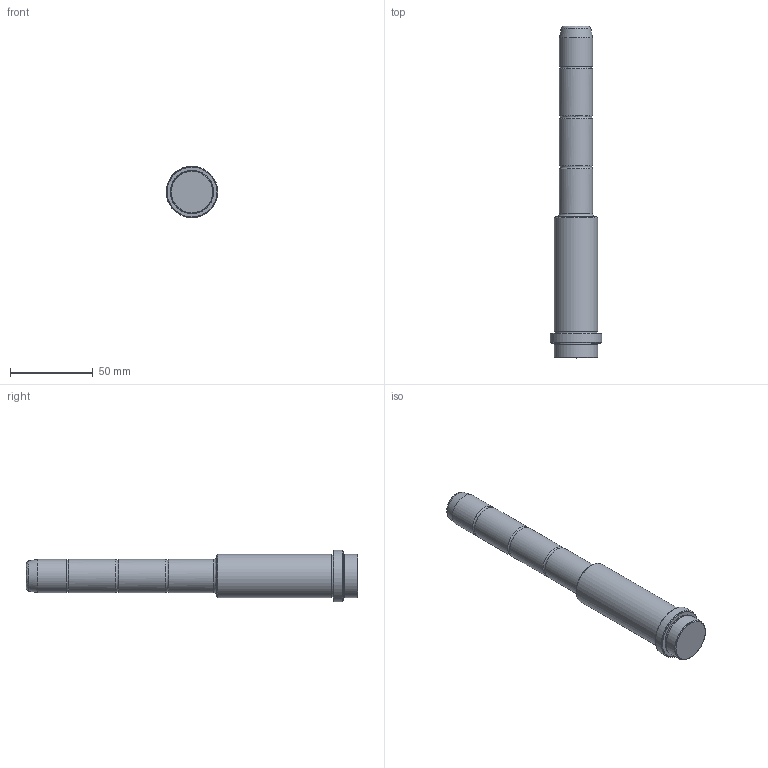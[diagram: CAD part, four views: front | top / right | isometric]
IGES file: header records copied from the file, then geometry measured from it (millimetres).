
Start section: Missler Software BP 521, 31674 Labege Cedex, France Tel   : +33 (0)5 61 00 03 00 Fax   : +33 (0)5 61 00 03 03 Email : sup.topsolid@topsolid.com
Global section: file name: D:\Cuma\24 03 2009\D03\D03_20X76X115.igs; native system: TopSolid v605250 Missler Software; preprocessor: IGES preprocessor v100000; date: 030101.001722; units: millimetre
Bounding box: 30.97 x 200 x 31 mm (x, y, z)
Surface area: 15648.2 mm2 (no closed solid volume)
Topology: 0 solids, 0 shells, 26 faces, 443 edges, 426 vertices
Faces by surface type: bspline 26
